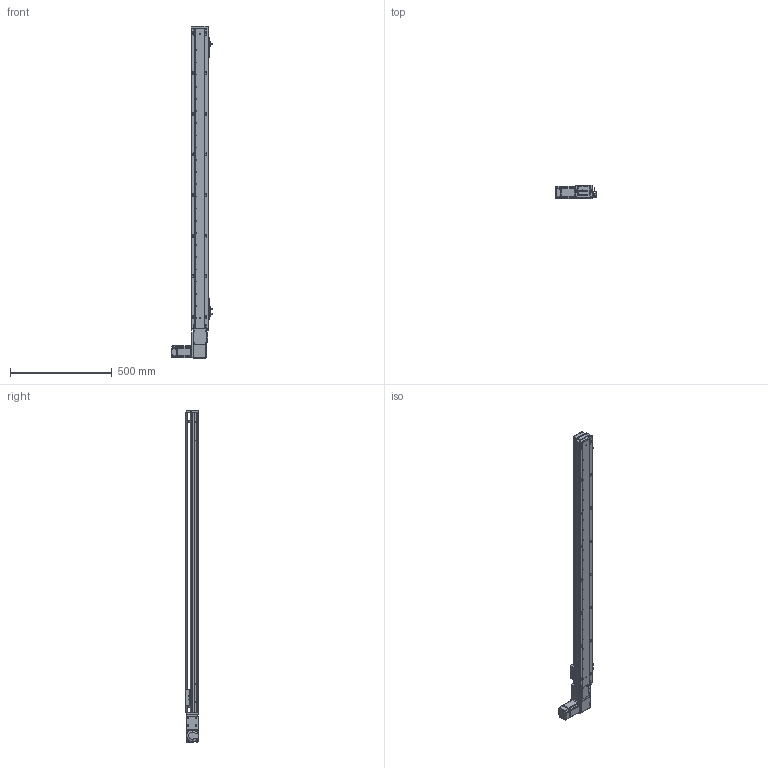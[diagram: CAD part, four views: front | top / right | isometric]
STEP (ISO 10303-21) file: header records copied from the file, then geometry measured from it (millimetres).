
FILE_DESCRIPTION (( 'STEP AP203' ), '1' );
FILE_NAME ('RY80-T-300-LK.SLDASM_1300.step', '2021-03-01T01:59:22', ( '盈信电脑' ), ( '东莞市道滘镇水果街19号' ), 'SwSTEP 2.0', 'SolidWorks 2012', '' );
FILE_SCHEMA (( 'CONFIG_CONTROL_DESIGN' ));
Products named in the file (19): RY80-T-300-LK.SLDASM_1300; RY80-T萇儂假蚾啣; RY80-T-M4蹟翐; RY80-T肮祭謫俋欶; 侂狟200W萇儂; 滅袉蝶18-10; 1; RY80-T翋肮祭謫裔啣; RY80-T肮祭湍揤輸2; RY80-T-翋肮祭謫釱; RY80-T肮祭湍揤輸1; RY80-T粣創揤踡輸; 672嫖萇羲壽假蚾釱; RY80俋离覜茼え; 覜茼ん672; RY80-T肮祭謫臏賑輸; RY80-T-300-LK倰第奻裔啣_1300; RY80-T綴裔啣; RY80-T-300-LK倰第菁釱_1300
Assembly tree (24 placements, depth 3):
  RY80-T-300-LK.SLDASM_1300
    RY80-T-300-LK倰第菁釱_1300
    RY80-T肮祭謫臏賑輸
    RY80-T-300-LK倰第奻裔啣_1300
    RY80-T綴裔啣
    672嫖萇羲壽假蚾釱  x2
    覜茼ん672  x3
    RY80俋离覜茼え
    RY80-T-翋肮祭謫釱
    RY80-T肮祭湍揤輸1
    RY80-T肮祭湍揤輸2
    RY80-T粣創揤踡輸
    RY80-T翋肮祭謫裔啣  x2
    滅袉蝶18-10  x2
    侂狟200W萇儂
      1
    RY80-T肮祭謫俋欶
    RY80-T萇儂假蚾啣
    RY80-T-M4蹟翐  x2
Bounding box: 198.7 x 65 x 1635 mm (x, y, z)
Volume: 2568387.2 mm3; surface area: 1082197.5 mm2
Topology: 23 solids, 23 shells, 2505 faces, 6925 edges, 4501 vertices
Faces by surface type: plane 1327, cylinder 973, cone 149, bspline 56
Entity records: 79143 total; most frequent: CARTESIAN_POINT 19387, ORIENTED_EDGE 12294, DIRECTION 11522, EDGE_CURVE 6147, VERTEX_POINT 4042, AXIS2_PLACEMENT_3D 3889, VECTOR 3744, LINE 3744
